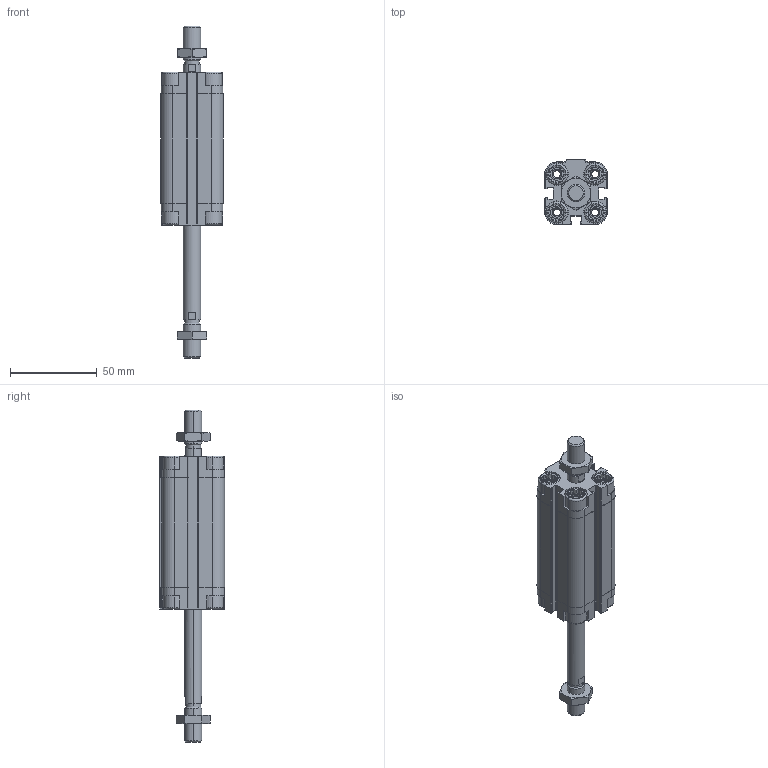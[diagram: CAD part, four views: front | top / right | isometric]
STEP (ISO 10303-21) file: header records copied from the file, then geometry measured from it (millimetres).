
FILE_DESCRIPTION (( 'STEP AP203' ), '1' );
FILE_NAME ('CDVU20-50M-P.STEP', '2020-07-21T15:08:54', ( '' ), ( '' ), 'SwSTEP 2.0', 'SolidWorks 2019', '' );
FILE_SCHEMA (( 'CONFIG_CONTROL_DESIGN' ));
Length unit declared in the file: millimetre
Products named in the file (1): CDVU20-50M-P
Bounding box: 36 x 37.5 x 191 mm (x, y, z)
Volume: 85651.2 mm3; surface area: 41329.7 mm2
Topology: 4 solids, 4 shells, 642 faces, 1674 edges, 1078 vertices
Faces by surface type: plane 374, cylinder 188, cone 64, torus 16
Entity records: 20369 total; most frequent: CARTESIAN_POINT 4535, ORIENTED_EDGE 3340, DIRECTION 3212, EDGE_CURVE 1670, AXIS2_PLACEMENT_3D 1115, VERTEX_POINT 1078, LINE 982, VECTOR 982
